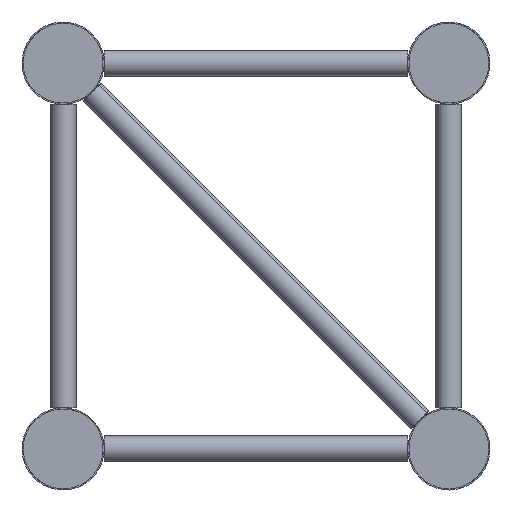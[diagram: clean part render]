
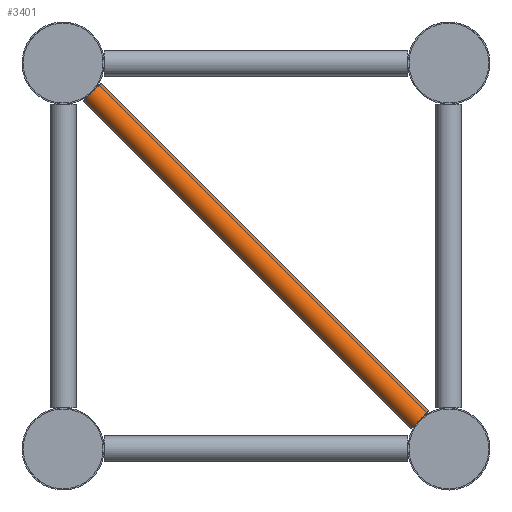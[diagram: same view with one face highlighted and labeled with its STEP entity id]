
A CAD part, left-side view. The second image highlights one B-rep face of the part: STEP entity #3401.
In plain terms, the highlighted cylindrical face has radius 8 mm (diameter 16 mm), a full revolution.
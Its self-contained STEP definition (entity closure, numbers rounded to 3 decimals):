
#27=B_SPLINE_CURVE_WITH_KNOTS('',3,(#5248,#5249,#5250,#5251,#5252,#5253),
 .UNSPECIFIED.,.F.,.F.,(4,2,4),(1.187,1.214,1.242),
 .UNSPECIFIED.);
#29=B_SPLINE_CURVE_WITH_KNOTS('',3,(#5266,#5267,#5268,#5269,#5270,#5271),
 .UNSPECIFIED.,.F.,.F.,(4,2,4),(3.616,3.643,3.67),
 .UNSPECIFIED.);
#36=B_SPLINE_CURVE_WITH_KNOTS('',3,(#5517,#5518,#5519,#5520,#5521,#5522),
 .UNSPECIFIED.,.F.,.F.,(4,2,4),(1.187,1.214,1.242),
 .UNSPECIFIED.);
#37=B_SPLINE_CURVE_WITH_KNOTS('',3,(#5526,#5527,#5528,#5529,#5530,#5531),
 .UNSPECIFIED.,.F.,.F.,(4,2,4),(3.616,3.643,3.67),
 .UNSPECIFIED.);
#405=CYLINDRICAL_SURFACE('',#3727,8.);
#520=FACE_BOUND('',#1035,.T.);
#712=FACE_OUTER_BOUND('',#1034,.T.);
#1034=EDGE_LOOP('',(#2301,#2302,#2303,#2304));
#1035=EDGE_LOOP('',(#2305,#2306,#2307,#2308));
#1360=CIRCLE('',#3726,8.);
#1361=CIRCLE('',#3728,8.);
#1362=CIRCLE('',#3729,8.);
#1363=CIRCLE('',#3730,8.);
#1474=VERTEX_POINT('',#5245);
#1475=VERTEX_POINT('',#5247);
#1478=VERTEX_POINT('',#5263);
#1479=VERTEX_POINT('',#5265);
#1528=VERTEX_POINT('',#5515);
#1529=VERTEX_POINT('',#5516);
#1530=VERTEX_POINT('',#5523);
#1531=VERTEX_POINT('',#5525);
#1729=EDGE_CURVE('',#1475,#1474,#27,.T.);
#1733=EDGE_CURVE('',#1479,#1478,#29,.T.);
#1799=EDGE_CURVE('',#1474,#1479,#1360,.T.);
#1800=EDGE_CURVE('',#1528,#1529,#36,.T.);
#1801=EDGE_CURVE('',#1529,#1530,#1361,.T.);
#1802=EDGE_CURVE('',#1530,#1531,#37,.T.);
#1803=EDGE_CURVE('',#1531,#1528,#1362,.T.);
#1804=EDGE_CURVE('',#1478,#1475,#1363,.T.);
#2301=ORIENTED_EDGE('',*,*,#1800,.T.);
#2302=ORIENTED_EDGE('',*,*,#1801,.T.);
#2303=ORIENTED_EDGE('',*,*,#1802,.T.);
#2304=ORIENTED_EDGE('',*,*,#1803,.T.);
#2305=ORIENTED_EDGE('',*,*,#1729,.T.);
#2306=ORIENTED_EDGE('',*,*,#1799,.T.);
#2307=ORIENTED_EDGE('',*,*,#1733,.T.);
#2308=ORIENTED_EDGE('',*,*,#1804,.T.);
#3401=ADVANCED_FACE('',(#712,#520),#405,.T.);
#3726=AXIS2_PLACEMENT_3D('',#5513,#4381,#4382);
#3727=AXIS2_PLACEMENT_3D('',#5514,#4383,#4384);
#3728=AXIS2_PLACEMENT_3D('',#5524,#4385,#4386);
#3729=AXIS2_PLACEMENT_3D('',#5532,#4387,#4388);
#3730=AXIS2_PLACEMENT_3D('',#5533,#4389,#4390);
#4381=DIRECTION('center_axis',(0.,-0.707,
-0.707));
#4382=DIRECTION('ref_axis',(0.,0.707,-0.707));
#4383=DIRECTION('center_axis',(0.,0.707,
0.707));
#4384=DIRECTION('ref_axis',(0.,0.707,-0.707));
#4385=DIRECTION('center_axis',(0.,0.707,
0.707));
#4386=DIRECTION('ref_axis',(0.,0.707,-0.707));
#4387=DIRECTION('center_axis',(0.,0.707,
0.707));
#4388=DIRECTION('ref_axis',(0.,0.707,-0.707));
#4389=DIRECTION('center_axis',(0.,-0.707,
-0.707));
#4390=DIRECTION('ref_axis',(0.,0.707,-0.707));
#5245=CARTESIAN_POINT('',(52.005,221.164,-18.224));
#5247=CARTESIAN_POINT('',(52.005,220.776,-17.836));
#5248=CARTESIAN_POINT('Ctrl Pts',(52.005,220.776,-17.836));
#5249=CARTESIAN_POINT('Ctrl Pts',(52.002,220.84,-17.902));
#5250=CARTESIAN_POINT('Ctrl Pts',(52.,220.904,-17.967));
#5251=CARTESIAN_POINT('Ctrl Pts',(52.,221.033,-18.096));
#5252=CARTESIAN_POINT('Ctrl Pts',(52.002,221.098,-18.16));
#5253=CARTESIAN_POINT('Ctrl Pts',(52.005,221.164,-18.224));
#5263=CARTESIAN_POINT('',(67.995,220.776,-17.836));
#5265=CARTESIAN_POINT('',(67.995,221.164,-18.224));
#5266=CARTESIAN_POINT('Ctrl Pts',(67.995,221.164,-18.224));
#5267=CARTESIAN_POINT('Ctrl Pts',(67.998,221.098,-18.16));
#5268=CARTESIAN_POINT('Ctrl Pts',(68.,221.033,-18.096));
#5269=CARTESIAN_POINT('Ctrl Pts',(68.,220.904,-17.967));
#5270=CARTESIAN_POINT('Ctrl Pts',(67.998,220.84,-17.902));
#5271=CARTESIAN_POINT('Ctrl Pts',(67.995,220.776,-17.836));
#5513=CARTESIAN_POINT('Origin',(60.,220.97,-18.03));
#5514=CARTESIAN_POINT('Origin',(60.,119.5,-119.5));
#5515=CARTESIAN_POINT('',(67.995,17.836,-220.776));
#5516=CARTESIAN_POINT('',(67.995,18.224,-221.164));
#5517=CARTESIAN_POINT('Ctrl Pts',(67.995,17.836,-220.776));
#5518=CARTESIAN_POINT('Ctrl Pts',(67.998,17.902,-220.84));
#5519=CARTESIAN_POINT('Ctrl Pts',(68.,17.967,-220.904));
#5520=CARTESIAN_POINT('Ctrl Pts',(68.,18.096,-221.033));
#5521=CARTESIAN_POINT('Ctrl Pts',(67.998,18.16,-221.098));
#5522=CARTESIAN_POINT('Ctrl Pts',(67.995,18.224,-221.164));
#5523=CARTESIAN_POINT('',(52.005,18.224,-221.164));
#5524=CARTESIAN_POINT('Origin',(60.,18.03,-220.97));
#5525=CARTESIAN_POINT('',(52.005,17.836,-220.776));
#5526=CARTESIAN_POINT('Ctrl Pts',(52.005,18.224,-221.164));
#5527=CARTESIAN_POINT('Ctrl Pts',(52.002,18.16,-221.098));
#5528=CARTESIAN_POINT('Ctrl Pts',(52.,18.096,-221.033));
#5529=CARTESIAN_POINT('Ctrl Pts',(52.,17.967,-220.904));
#5530=CARTESIAN_POINT('Ctrl Pts',(52.002,17.902,-220.84));
#5531=CARTESIAN_POINT('Ctrl Pts',(52.005,17.836,-220.776));
#5532=CARTESIAN_POINT('Origin',(60.,18.03,-220.97));
#5533=CARTESIAN_POINT('Origin',(60.,220.97,-18.03));
